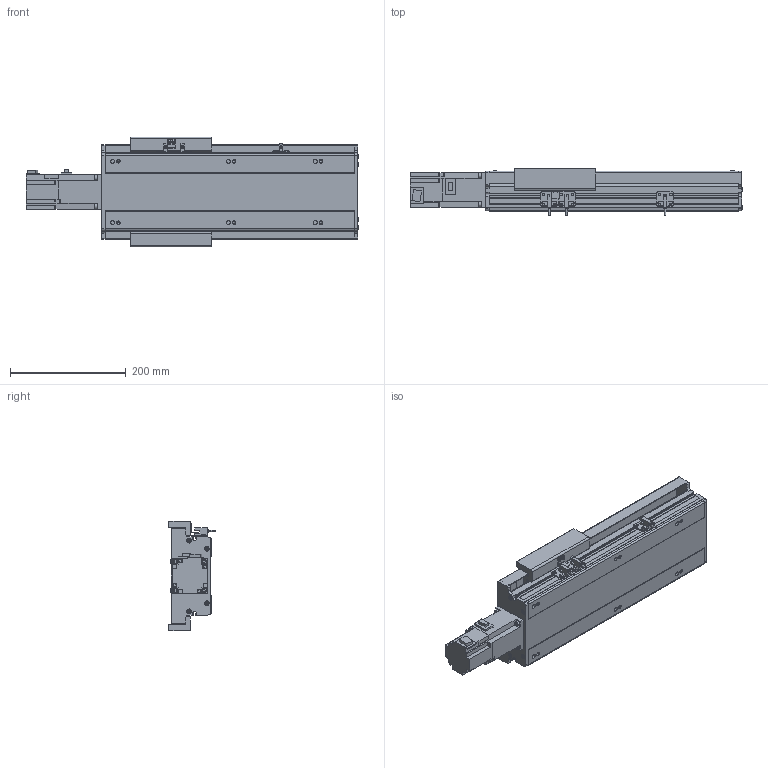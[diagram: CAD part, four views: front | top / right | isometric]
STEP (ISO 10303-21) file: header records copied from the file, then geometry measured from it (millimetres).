
FILE_DESCRIPTION(/* description */ ('STEP AP214'),/* implementation_level */ '2;1');
FILE_NAME(/* name */ 'PSM140-L10-S200-BC-T40-C1-N(0)',/* time_stamp */ '2022-06-13T03:18:34+02:00',/* author */ ('License CC BY-ND 4.0'),/* organization */ ('CADENAS'),/* preprocessor_version */ 'ST-DEVELOPER v18.102',/* originating_system */ 'PARTsolutions',/* authorisation */ ' ');
FILE_SCHEMA (('AUTOMOTIVE_DESIGN {1 0 10303 214 3 1 1}'));
Length unit declared in the file: millimetre
Products named in the file (7): PSM140-L10-S200-BC-T40-C1-N(0); PSM-Sensor; PSM140-S200-442.5; T40-p1; PSM140_body3; PSM140-S200_body1; PSM140-L10-S200-BC-T40-C1-N(0)_dummy
Assembly tree (10 placements, depth 2):
  PSM140-L10-S200-BC-T40-C1-N(0)
    PSM-Sensor  x3
    PSM140-S200-442.5  x3
    T40-p1
    PSM140_body3
    PSM140-S200_body1
    PSM140-L10-S200-BC-T40-C1-N(0)_dummy
Bounding box: 573.7 x 81.3 x 190 mm (x, y, z)
Volume: 2620171.3 mm3; surface area: 548603.4 mm2
Topology: 9 solids, 9 shells, 912 faces, 2403 edges, 1562 vertices
Faces by surface type: plane 616, cylinder 234, cone 48, torus 14
Full cylindrical faces by diameter (mm): 2.8 x3, 4.5 x12, 4.6 x3, 4.917 x14, 5.5 x7, 5.7 x6, 6 x2, 7 x14, 8 x8, 8.5 x4, 10.5 x6, 14 x1, 50 x1
Entity records: 23116 total; most frequent: CARTESIAN_POINT 4065, DIRECTION 3923, ORIENTED_EDGE 3710, EDGE_CURVE 1855, LINE 1337, VECTOR 1337, AXIS2_PLACEMENT_3D 1293, VERTEX_POINT 1288
